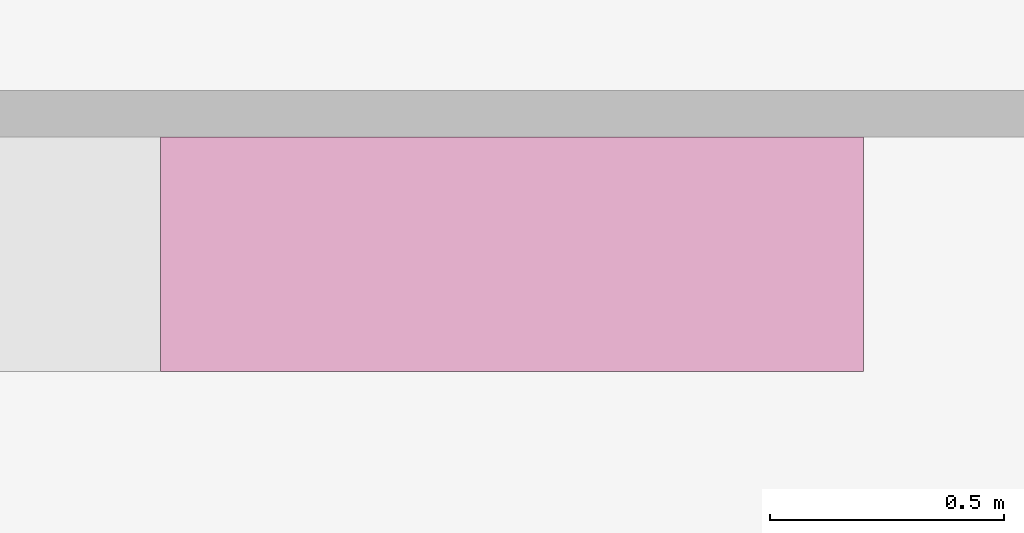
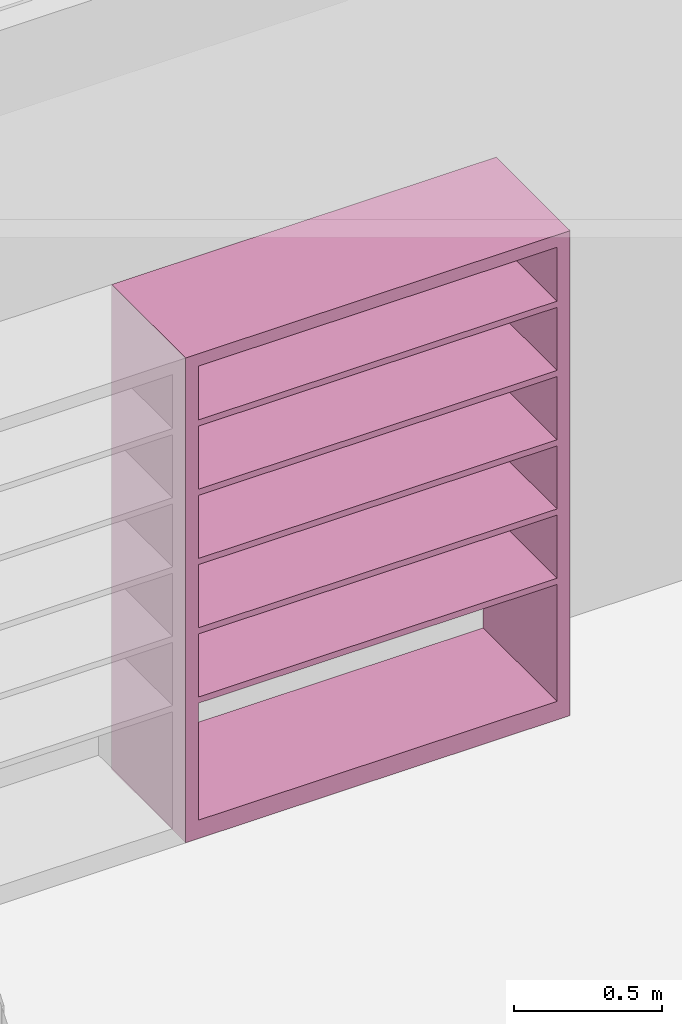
# One storey, part 125 of 137: 1 furnishing.
"""IFC2X3 building model written with IfcOpenShell, lengths in centimetres."""

from ifc_helpers import new_model, entity, si_unit, converted_unit, derived_unit, direction, frame, origin, place, context, subcontext, project, spatial, polyline, outline, extrude, source, transform, mapped, material, type_object, type_shapes, element, save


model = new_model("IFC2X3")

# Units and contexts
model_context = context("Model", 3, precision=0.001, world=origin(), true_north=direction((6.12303176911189e-17, 1.0)))
body_context = subcontext(model_context, "Body", "Model", "MODEL_VIEW")
ifc_project = project(units=[si_unit("LENGTHUNIT", "METRE", prefix="CENTI"), si_unit("AREAUNIT", "SQUARE_METRE"), si_unit("VOLUMEUNIT", "CUBIC_METRE"), converted_unit("PLANEANGLEUNIT", "DEGREE", entity("IfcRatioMeasure", 0.0174532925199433), si_unit("PLANEANGLEUNIT", "RADIAN"), dimensions=[0, 0, 0, 0, 0, 0, 0]), si_unit("MASSUNIT", "GRAM", prefix="KILO"), si_unit("TIMEUNIT", "SECOND"), si_unit("FREQUENCYUNIT", "HERTZ"), si_unit("THERMODYNAMICTEMPERATUREUNIT", "DEGREE_CELSIUS"), derived_unit("THERMALTRANSMITTANCEUNIT", [(si_unit("MASSUNIT", "GRAM", prefix="KILO"), 1), (si_unit("THERMODYNAMICTEMPERATUREUNIT", "KELVIN"), -1), (si_unit("TIMEUNIT", "SECOND"), -3)]), derived_unit("VOLUMETRICFLOWRATEUNIT", [(si_unit("LENGTHUNIT", "METRE"), 3), (si_unit("TIMEUNIT", "SECOND"), -1)]), si_unit("ELECTRICCURRENTUNIT", "AMPERE"), si_unit("ELECTRICVOLTAGEUNIT", "VOLT"), si_unit("POWERUNIT", "WATT"), si_unit("FORCEUNIT", "NEWTON", prefix="KILO"), si_unit("ILLUMINANCEUNIT", "LUX"), si_unit("LUMINOUSFLUXUNIT", "LUMEN"), si_unit("LUMINOUSINTENSITYUNIT", "CANDELA"), derived_unit("USERDEFINED", [(si_unit("MASSUNIT", "GRAM", prefix="KILO"), -1), (si_unit("LENGTHUNIT", "METRE"), -2), (si_unit("TIMEUNIT", "SECOND"), 3), (si_unit("LUMINOUSFLUXUNIT", "LUMEN"), 1)]), derived_unit("LINEARVELOCITYUNIT", [(si_unit("LENGTHUNIT", "METRE"), 1), (si_unit("TIMEUNIT", "SECOND"), -1)]), si_unit("PRESSUREUNIT", "PASCAL"), derived_unit("USERDEFINED", [(si_unit("LENGTHUNIT", "METRE"), -2), (si_unit("MASSUNIT", "GRAM", prefix="KILO"), 1), (si_unit("TIMEUNIT", "SECOND"), -2)])], contexts=[model_context])

# Site, building, storey, space
site_placement = place(None, frame((8.62739174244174, -249.285249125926, 0.0)))
site = spatial("IfcSite", under=ifc_project, at=site_placement, Name="Default", CompositionType="ELEMENT")
building_placement = place(site_placement, origin())
building = spatial("IfcBuilding", under=site, at=building_placement, CompositionType="ELEMENT")
storey_placement = place(building_placement, origin())
storey = spatial("IfcBuildingStorey", under=building, at=storey_placement, Name="RDC", CompositionType="ELEMENT", Elevation=-8.82465566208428e-11)
space_placement = place(storey_placement, origin())
space = spatial("IfcSpace", under=storey, at=space_placement, Name="049", CompositionType="ELEMENT", InteriorOrExteriorSpace="INTERNAL")

# Furnishing
ifc_material = material(Name="Alu")
furniture_type = type_object("IfcFurnitureType", Name="150 x 50 x 200", AssemblyPlace="NOTDEFINED", material=ifc_material)
shared_shape = source(origin(), body_context, "Body", "SweptSolid", [
    extrude(outline(polyline([(-75.0, -100.0), (75.0, -100.0), (75.0, 100.0), (-75.0, 100.0), (-75.0, -100.0)]), holes=[polyline([(-69.9200000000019, 94.9199999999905), (69.9200000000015, 94.9199999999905), (69.9200000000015, 72.698571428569), (-69.9200000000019, 72.698571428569), (-69.9200000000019, 94.9199999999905)]), polyline([(-69.9200000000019, -92.3800000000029), (-69.9200000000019, -44.1271428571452), (69.9200000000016, -44.1271428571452), (69.9200000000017, -92.3800000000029), (-69.9200000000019, -92.3800000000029)]), polyline([(69.9200000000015, 15.5557142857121), (-69.9200000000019, 15.5557142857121), (-69.9200000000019, 41.5871428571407), (69.9200000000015, 41.5871428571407), (69.9200000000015, 15.5557142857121)]), polyline([(-69.9200000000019, 70.1585714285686), (69.9200000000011, 70.1585714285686), (69.9200000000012, 44.1271428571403), (-69.9200000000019, 44.1271428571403), (-69.9200000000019, 70.1585714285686)]), polyline([(-69.9200000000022, 13.0157142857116), (69.9200000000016, 13.0157142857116), (69.9200000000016, -13.0157142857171), (-69.9200000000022, -13.0157142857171), (-69.9200000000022, 13.0157142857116)]), polyline([(-69.9200000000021, -15.5557142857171), (69.9200000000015, -15.5557142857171), (69.9200000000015, -41.5871428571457), (-69.9200000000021, -41.5871428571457), (-69.9200000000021, -15.5557142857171)])]), frame((0.0, 5.48000000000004, 100.0), z_axis=(0.0, 1.0, 0.0), x_axis=(-1.0, 0.0, 0.0)), (0.0, 0.0, 1.0), 50.0),
])
type_shapes(furniture_type, [shared_shape])
furnishing_placement = place(space_placement, frame((3278.9048277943, 3724.7051933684, 0.0)))
element("IfcFurnishingElement", 1, at=furnishing_placement, inside=space, type_object=furniture_type, material=ifc_material, Name="Etagère:150 x 50 x 200", ObjectType="150 x 50 x 200", context=body_context, shape_type="MappedRepresentation", body=[
    mapped(shared_shape, transform((0.0, 0.0, 0.0), scale=1.0)),
])

save(model, "model.ifc")
